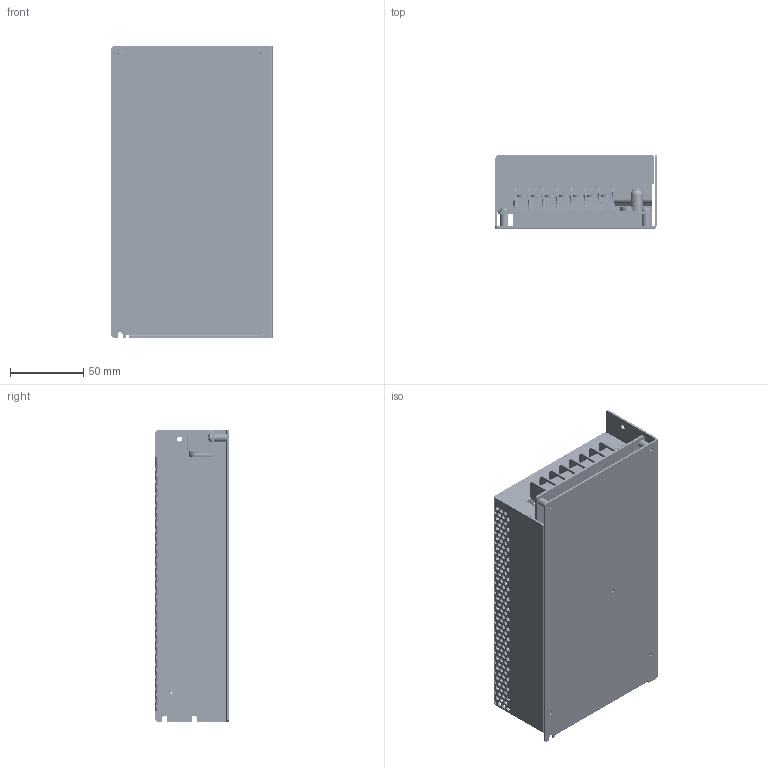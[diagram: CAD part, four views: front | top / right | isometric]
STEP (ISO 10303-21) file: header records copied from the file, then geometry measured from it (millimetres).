
FILE_DESCRIPTION (( 'STEP AP214' ), '1' );
FILE_NAME ('15490.STEP', '2020-06-16T21:53:57', ( '' ), ( '' ), 'SwSTEP 2.0', 'SolidWorks 2019', '' );
FILE_SCHEMA (( 'AUTOMOTIVE_DESIGN' ));
Length unit declared in the file: millimetre
Products named in the file (1): 15490
Bounding box: 110 x 50 x 199 mm (x, y, z)
Volume: 123071.7 mm3; surface area: 181151.4 mm2
Topology: 6 solids, 6 shells, 4178 faces, 12016 edges, 7932 vertices
Faces by surface type: cylinder 2470, plane 1146, bspline 540, cone 20, torus 2
Entity records: 193503 total; most frequent: CARTESIAN_POINT 61257, ORIENTED_EDGE 24032, DIRECTION 22778, EDGE_CURVE 12016, AXIS2_PLACEMENT_3D 8473, VERTEX_POINT 7932, EDGE_LOOP 6560, VECTOR 5832
